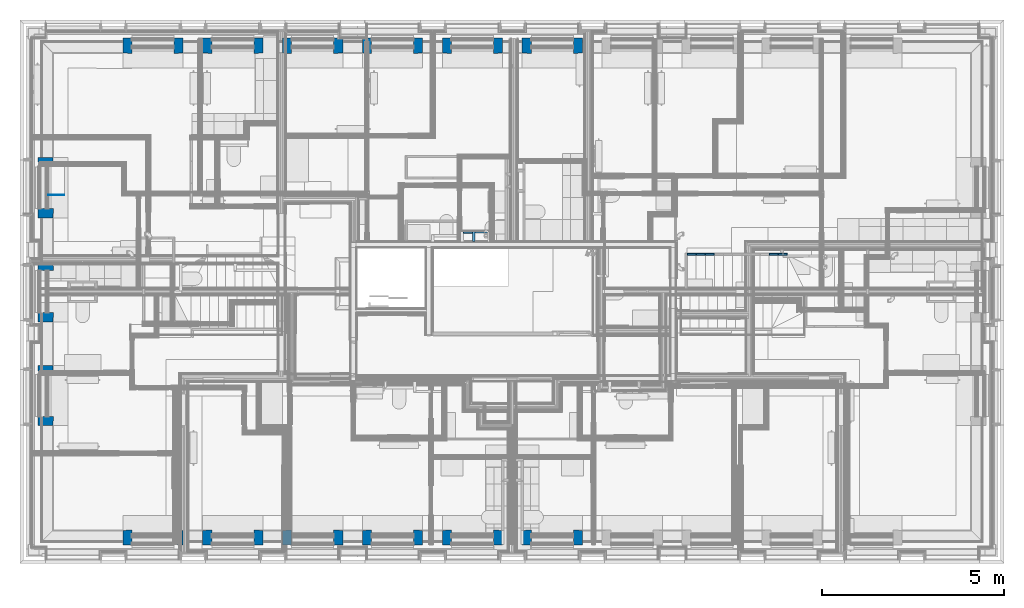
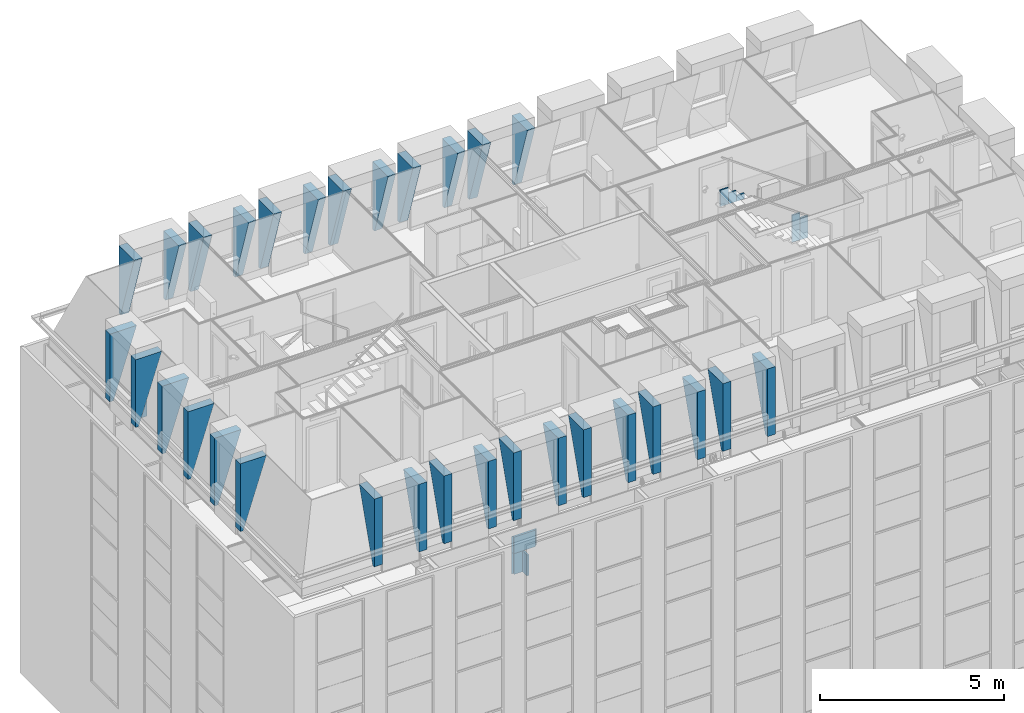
# One storey, part 11 of 169: 39 walls.
"""IFC2X3 building model written with IfcOpenShell, lengths in metres."""

import ifcopenshell
import ifcopenshell.guid

model = None  # the IFC model being written
_history = None  # IfcOwnerHistory: only IFC2X3 demands one
_inside = {}  # id of a spatial element -> (the spatial element, [elements in it])
_under = {}  # id of a project, library or spatial element -> (it, [spatial elements below it])
_declared = {}  # id of a project -> (the project, [libraries it declares])
_typed = {}  # id of a type object -> (the type object, [elements of that type])
_made_of = {}  # id of a material, layer set ... -> (it, [elements and type objects made of it])


def new_model(schema):
    """Start an empty IFC model of exactly this schema.

    Asked for "IFC4X3", IfcOpenShell would pick the latest addendum, in which some entities
    have other attributes; the version numbers below select the first issue.
    IFC2X3 requires an IfcOwnerHistory on every rooted entity: one is made here for all.
    """
    global model, _history
    if schema == "IFC4X3":
        model = ifcopenshell.file(schema_version=(4, 3, 0, 0))
    else:
        model = ifcopenshell.file(schema=schema)
    _inside.clear()
    _under.clear()
    _declared.clear()
    _typed.clear()
    _made_of.clear()
    _history = None
    if model.schema == "IFC2X3":
        org = make("IfcOrganization", Name="unknown")
        user = make(
            "IfcPersonAndOrganization",
            ThePerson=make("IfcPerson", FamilyName="unknown"),
            TheOrganization=org,
        )
        app = make(
            "IfcApplication",
            ApplicationDeveloper=org,
            Version="unknown",
            ApplicationFullName="unknown",
            ApplicationIdentifier="unknown",
        )
        _history = make(
            "IfcOwnerHistory",
            OwningUser=user,
            OwningApplication=app,
            ChangeAction="ADDED",
            CreationDate=0,
        )
    return model


def make(cls, **values):
    """One entity of the class cls with the attributes given. An attribute that is None is left unset."""
    return model.create_entity(
        cls, **{name: value for name, value in values.items() if value is not None}
    )


def entity(cls, *values):
    """Any entity or typed value of the class cls, its attributes in the order of the schema. None: left unset."""
    e = model.create_entity(cls)
    for i, value in enumerate(values):
        if value is not None:
            e[i] = value
    return e


def rooted(cls, **values):
    """An entity with a GlobalId (a new one), such as an element, a storey or a relation."""
    return make(cls, GlobalId=ifcopenshell.guid.new(), OwnerHistory=_history, **values)


def si_unit(unit_type, name, prefix=None):
    """IfcSIUnit, for example si_unit("LENGTHUNIT", "METRE", prefix="MILLI")."""
    return make("IfcSIUnit", UnitType=unit_type, Prefix=prefix, Name=name)


def converted_unit(unit_type, name, factor, base, dimensions=None, offset=None):
    """IfcConversionBasedUnit, such as the inch: factor (a typed value) times the base unit."""
    return make(
        "IfcConversionBasedUnit"
        if offset is None
        else "IfcConversionBasedUnitWithOffset",
        ConversionOffset=offset,
        Dimensions=None
        if dimensions is None
        else entity("IfcDimensionalExponents", *dimensions),
        UnitType=unit_type,
        Name=name,
        ConversionFactor=make(
            "IfcMeasureWithUnit", ValueComponent=factor, UnitComponent=base
        ),
    )


def derived_unit(unit_type, elements):
    """IfcDerivedUnit: a product of units, each with its exponent."""
    return make(
        "IfcDerivedUnit",
        Elements=[
            make("IfcDerivedUnitElement", Unit=unit, Exponent=power)
            for unit, power in elements
        ],
        UnitType=unit_type,
    )


def money_unit(currency):
    """IfcMonetaryUnit."""
    return make("IfcMonetaryUnit", Currency=currency)


def assignment(units):
    """IfcUnitAssignment: the units of a project."""
    return None if units is None else make("IfcUnitAssignment", Units=units)


def point(xyz):
    """IfcCartesianPoint."""
    return None if xyz is None else make("IfcCartesianPoint", Coordinates=xyz)


def direction(xyz):
    """IfcDirection."""
    return None if xyz is None else make("IfcDirection", DirectionRatios=xyz)


def frame(location, z_axis=None, x_axis=None):
    """IfcAxis2Placement3D, a coordinate frame: its origin and axes. An axis left out is left unset."""
    return make(
        "IfcAxis2Placement3D",
        Location=point(location),
        Axis=direction(z_axis),
        RefDirection=direction(x_axis),
    )


def frame_2d(location, x_axis=None):
    """IfcAxis2Placement2D, a coordinate frame in the plane: its origin and x axis."""
    return make(
        "IfcAxis2Placement2D", Location=point(location), RefDirection=direction(x_axis)
    )


def origin_with_axes():
    """The frame at (0, 0, 0) with the z axis (0, 0, 1) and the x axis (1, 0, 0) written out."""
    return frame((0.0, 0.0, 0.0), z_axis=(0.0, 0.0, 1.0), x_axis=(1.0, 0.0, 0.0))


def place(relative_to, where):
    """IfcLocalPlacement: puts the frame where relative to a parent placement (None: the world)."""
    return make(
        "IfcLocalPlacement", PlacementRelTo=relative_to, RelativePlacement=where
    )


def context(
    kind, dimensions, precision=None, world=None, true_north=None, identifier=None
):
    """IfcGeometricRepresentationContext, for example the 3D "Model" context."""
    return make(
        "IfcGeometricRepresentationContext",
        ContextIdentifier=identifier,
        ContextType=kind,
        CoordinateSpaceDimension=dimensions,
        Precision=precision,
        WorldCoordinateSystem=world,
        TrueNorth=true_north,
    )


def subcontext(parent, identifier, kind, view, scale=None):
    """IfcGeometricRepresentationSubContext, for example "Body" below "Model"."""
    return make(
        "IfcGeometricRepresentationSubContext",
        ContextIdentifier=identifier,
        ContextType=kind,
        ParentContext=parent,
        TargetScale=scale,
        TargetView=view,
    )


def project(units=None, contexts=None):
    """IfcProject with its units and contexts."""
    return rooted(
        "IfcProject",
        Name="project",
        RepresentationContexts=contexts,
        UnitsInContext=assignment(units),
    )


def spatial(cls, under=None, at=None, **own):
    """A site, building, storey or space (cls), placed at a placement, below another one or the project."""
    s = rooted(cls, ObjectPlacement=at, **own)
    if under is not None:
        _under.setdefault(under.id(), (under, []))[1].append(s)
    return s


def polyline(points):
    """IfcPolyline through the points."""
    return make("IfcPolyline", Points=[point(p) for p in points])


def profile(cls, at=None, kind="AREA", **sizes):
    """A parametric profile (cls). Its sizes go by their IFC names, for example OverallWidth=200.0."""
    return make(cls, ProfileType=kind, Position=at, **sizes)


def rectangle(**sizes):
    """IfcRectangleProfileDef."""
    return profile("IfcRectangleProfileDef", **sizes)


def outline(outer, holes=None, kind="AREA"):
    """IfcArbitraryClosedProfileDef: a profile drawn as a closed curve; with holes, ...WithVoids."""
    if holes is None:
        return make("IfcArbitraryClosedProfileDef", ProfileType=kind, OuterCurve=outer)
    return make(
        "IfcArbitraryProfileDefWithVoids",
        ProfileType=kind,
        OuterCurve=outer,
        InnerCurves=holes,
    )


def extrude(swept, where, along, depth):
    """IfcExtrudedAreaSolid: the profile swept, set in the frame where, extruded along a direction by depth."""
    return make(
        "IfcExtrudedAreaSolid",
        SweptArea=swept,
        Position=where,
        ExtrudedDirection=direction(along),
        Depth=depth,
    )


def faces_of(points, faces, orient=None, outer=None):
    """IfcFace entities. A face is a list of loops; a loop is a list of indices into points, from 0.

    orient and outer hold one flag for each loop. By default every Orientation is true, the
    first loop of a face is its IfcFaceOuterBound and the others are IfcFaceBound.
    """
    made = []
    for i, loops in enumerate(faces):
        bounds = []
        for j, loop in enumerate(loops):
            is_outer = j == 0 if outer is None else outer[i][j]
            bounds.append(
                make(
                    "IfcFaceOuterBound" if is_outer else "IfcFaceBound",
                    Bound=make("IfcPolyLoop", Polygon=[points[k] for k in loop]),
                    Orientation=True if orient is None else orient[i][j],
                )
            )
        made.append(make("IfcFace", Bounds=bounds))
    return made


def faceted_brep(points, faces, orient=None, outer=None, voids=None):
    """IfcFacetedBrep: a solid bounded by flat faces; with voids (closed shells), ...WithVoids."""
    shared = [point(p) for p in points]
    hull = make("IfcClosedShell", CfsFaces=faces_of(shared, faces, orient, outer))
    if voids is None:
        return make("IfcFacetedBrep", Outer=hull)
    return make(
        "IfcFacetedBrepWithVoids",
        Outer=hull,
        Voids=[
            make(cls, CfsFaces=faces_of(shared, fs, o, b)) for cls, fs, o, b in voids
        ],
    )


def shape(context_of_items, identifier, shape_type, items):
    """IfcShapeRepresentation: the items that make up one representation, for example the "Body"."""
    return make(
        "IfcShapeRepresentation",
        ContextOfItems=context_of_items,
        RepresentationIdentifier=identifier,
        RepresentationType=shape_type,
        Items=items,
    )


def material(Name=None, Category=None):
    """IfcMaterial."""
    return make("IfcMaterial", Name=Name, Category=Category)


def layer(
    of_material, thickness, ventilated=None, Name=None, Category=None, Priority=None
):
    """IfcMaterialLayer: one layer of a wall or slab, of a material (None: an air gap)."""
    return make(
        "IfcMaterialLayer",
        Material=of_material,
        LayerThickness=thickness,
        IsVentilated=ventilated,
        Name=Name,
        Category=Category,
        Priority=Priority,
    )


def layer_set(layers, Name=None):
    """IfcMaterialLayerSet."""
    return make("IfcMaterialLayerSet", MaterialLayers=layers, LayerSetName=Name)


def layer_usage(for_layer_set, set_direction, sense, offset, extent=None):
    """IfcMaterialLayerSetUsage: how a layer set lies in its element."""
    return make(
        "IfcMaterialLayerSetUsage",
        ForLayerSet=for_layer_set,
        LayerSetDirection=set_direction,
        DirectionSense=sense,
        OffsetFromReferenceLine=offset,
        ReferenceExtent=extent,
    )


def made_of(thing, what):
    """Note that an element or type object is made of a material, layer set ...; save() writes the relation."""
    if what is not None:
        _made_of.setdefault(what.id(), (what, []))[1].append(thing)
    return thing


def type_object(cls, material=None, **own):
    """A type object (cls), such as IfcWallType, which elements share."""
    return made_of(rooted(cls, **own), material)


def element(
    cls,
    number,
    at=None,
    inside=None,
    cuts=None,
    type_object=None,
    material=None,
    context=None,
    identifier="Body",
    shape_type=None,
    held_by="IfcProductDefinitionShape",
    body=None,
    shapes=None,
    **own,
):
    """One element of the class cls, such as IfcWall. Its Tag is "e" and its number.

    at: its placement. inside: the storey or other place that contains it. cuts: it is an
    opening in that element (IfcRelVoidsElement). A single representation is given by context,
    identifier, shape_type and body (its items); several are given by shapes. held_by: the class
    of the entity that holds the representations. save() writes the other relations.
    """
    e = rooted(cls, Tag="e%d" % number, ObjectPlacement=at, **own)
    if body is not None:
        shapes = [shape(context, identifier, shape_type, body)]
    if shapes is not None:
        e.Representation = make(held_by, Representations=shapes)
    if inside is not None:
        _inside.setdefault(inside.id(), (inside, []))[1].append(e)
    if cuts is not None:
        rooted(
            "IfcRelVoidsElement", RelatingBuildingElement=cuts, RelatedOpeningElement=e
        )
    if type_object is not None:
        _typed.setdefault(type_object.id(), (type_object, []))[1].append(e)
    return made_of(e, material)


def aggregate(whole, parts):
    """IfcRelAggregates: a whole, such as a stair, and the parts it consists of."""
    return rooted("IfcRelAggregates", RelatingObject=whole, RelatedObjects=parts)


def save(model, path):
    """Write the relations noted so far, then the file.

    IfcRelAggregates (storeys below a building ...), IfcRelContainedInSpatialStructure (elements
    in a storey), IfcRelDefinesByType, IfcRelAssociatesMaterial and IfcRelDeclares: one each for
    every whole, place, type object, material and project.
    """
    for whole, parts in _under.values():
        aggregate(whole, parts)
    for where, things in _inside.values():
        rooted(
            "IfcRelContainedInSpatialStructure",
            RelatedElements=things,
            RelatingStructure=where,
        )
    for kind, things in _typed.values():
        rooted("IfcRelDefinesByType", RelatedObjects=things, RelatingType=kind)
    for what, things in _made_of.values():
        rooted("IfcRelAssociatesMaterial", RelatedObjects=things, RelatingMaterial=what)
    for by, libraries in _declared.values():
        rooted("IfcRelDeclares", RelatingContext=by, RelatedDefinitions=libraries)
    model.write(path)


model = new_model("IFC2X3")

# Units and contexts
model_context = context("Model", 3, precision=1e-05, world=origin_with_axes(), true_north=direction((0.0, 1.0)))
body_context = subcontext(model_context, "Body", "Model", "MODEL_VIEW", scale=1.0)
ifc_project = project(units=[si_unit("LENGTHUNIT", "METRE"), si_unit("AREAUNIT", "SQUARE_METRE"), si_unit("VOLUMEUNIT", "CUBIC_METRE"), si_unit("ABSORBEDDOSEUNIT", "GRAY"), si_unit("AMOUNTOFSUBSTANCEUNIT", "MOLE"), si_unit("DOSEEQUIVALENTUNIT", "SIEVERT"), si_unit("ELECTRICCAPACITANCEUNIT", "FARAD"), si_unit("ELECTRICCHARGEUNIT", "COULOMB"), si_unit("ELECTRICCONDUCTANCEUNIT", "SIEMENS"), si_unit("ELECTRICCURRENTUNIT", "AMPERE"), si_unit("ELECTRICRESISTANCEUNIT", "OHM"), si_unit("ELECTRICVOLTAGEUNIT", "VOLT"), si_unit("ENERGYUNIT", "JOULE"), si_unit("FORCEUNIT", "NEWTON"), si_unit("FREQUENCYUNIT", "HERTZ"), si_unit("ILLUMINANCEUNIT", "LUX"), si_unit("INDUCTANCEUNIT", "HENRY"), si_unit("LUMINOUSFLUXUNIT", "LUMEN"), si_unit("LUMINOUSINTENSITYUNIT", "CANDELA"), si_unit("MAGNETICFLUXDENSITYUNIT", "TESLA"), si_unit("MAGNETICFLUXUNIT", "WEBER"), si_unit("MASSUNIT", "GRAM"), converted_unit("PLANEANGLEUNIT", "degree", entity("IfcReal", 0.0174532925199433), si_unit("PLANEANGLEUNIT", "RADIAN"), dimensions=[0, 0, 0, 0, 0, 0, 0]), si_unit("POWERUNIT", "WATT"), si_unit("PRESSUREUNIT", "PASCAL"), si_unit("RADIOACTIVITYUNIT", "BECQUEREL"), si_unit("SOLIDANGLEUNIT", "STERADIAN"), si_unit("THERMODYNAMICTEMPERATUREUNIT", "KELVIN"), si_unit("TIMEUNIT", "SECOND"), derived_unit("ACCELERATIONUNIT", [(si_unit("LENGTHUNIT", "METRE"), 1), (si_unit("TIMEUNIT", "SECOND"), -2)]), derived_unit("ANGULARVELOCITYUNIT", [(converted_unit("PLANEANGLEUNIT", "degree", entity("IfcReal", 0.0174532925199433), si_unit("PLANEANGLEUNIT", "RADIAN"), dimensions=[0, 0, 0, 0, 0, 0, 0]), 1), (si_unit("TIMEUNIT", "SECOND"), -1)]), derived_unit("CURVATUREUNIT", [(converted_unit("PLANEANGLEUNIT", "degree", entity("IfcReal", 0.0174532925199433), si_unit("PLANEANGLEUNIT", "RADIAN"), dimensions=[0, 0, 0, 0, 0, 0, 0]), 1), (si_unit("LENGTHUNIT", "METRE"), -1)]), derived_unit("DYNAMICVISCOSITYUNIT", [(si_unit("PRESSUREUNIT", "PASCAL"), 1), (si_unit("TIMEUNIT", "SECOND"), 1)]), derived_unit("HEATFLUXDENSITYUNIT", [(si_unit("POWERUNIT", "WATT"), 1), (si_unit("LENGTHUNIT", "METRE"), -2)]), derived_unit("HEATINGVALUEUNIT", [(si_unit("ENERGYUNIT", "JOULE"), 1), (si_unit("MASSUNIT", "GRAM"), -1)]), derived_unit("INTEGERCOUNTRATEUNIT", [(si_unit("TIMEUNIT", "SECOND"), -1)]), derived_unit("IONCONCENTRATIONUNIT", [(si_unit("MASSUNIT", "GRAM"), 1), (si_unit("VOLUMEUNIT", "CUBIC_METRE"), -1)]), derived_unit("ISOTHERMALMOISTURECAPACITYUNIT", [(si_unit("VOLUMEUNIT", "CUBIC_METRE"), 1), (si_unit("MASSUNIT", "GRAM"), -1)]), derived_unit("KINEMATICVISCOSITYUNIT", [(si_unit("AREAUNIT", "SQUARE_METRE"), 1), (si_unit("TIMEUNIT", "SECOND"), -1)]), derived_unit("LINEARFORCEUNIT", [(si_unit("FORCEUNIT", "NEWTON"), 1), (si_unit("LENGTHUNIT", "METRE"), -1)]), derived_unit("LINEARMOMENTUNIT", [(si_unit("FORCEUNIT", "NEWTON"), 1), (si_unit("LENGTHUNIT", "METRE"), -1)]), derived_unit("LINEARSTIFFNESSUNIT", [(si_unit("FORCEUNIT", "NEWTON"), 1), (si_unit("LENGTHUNIT", "METRE"), -1)]), derived_unit("LINEARVELOCITYUNIT", [(si_unit("LENGTHUNIT", "METRE"), 1), (si_unit("TIMEUNIT", "SECOND"), -1)]), derived_unit("LUMINOUSINTENSITYDISTRIBUTIONUNIT", [(si_unit("LUMINOUSINTENSITYUNIT", "CANDELA"), 1), (si_unit("LUMINOUSFLUXUNIT", "LUMEN"), -1)]), derived_unit("MASSDENSITYUNIT", [(si_unit("MASSUNIT", "GRAM"), 1), (si_unit("VOLUMEUNIT", "CUBIC_METRE"), -1)]), derived_unit("MASSFLOWRATEUNIT", [(si_unit("MASSUNIT", "GRAM"), 1), (si_unit("TIMEUNIT", "SECOND"), -1)]), derived_unit("MASSPERLENGTHUNIT", [(si_unit("MASSUNIT", "GRAM"), 1), (si_unit("LENGTHUNIT", "METRE"), -1)]), derived_unit("MODULUSOFELASTICITYUNIT", [(si_unit("FORCEUNIT", "NEWTON"), 1), (si_unit("AREAUNIT", "SQUARE_METRE"), -1)]), derived_unit("MODULUSOFLINEARSUBGRADEREACTIONUNIT", [(si_unit("FORCEUNIT", "NEWTON"), 1), (si_unit("LENGTHUNIT", "METRE"), -2)]), derived_unit("MODULUSOFROTATIONALSUBGRADEREACTIONUNIT", [(si_unit("FORCEUNIT", "NEWTON"), 1), (si_unit("LENGTHUNIT", "METRE"), 1)]), derived_unit("MODULUSOFSUBGRADEREACTIONUNIT", [(si_unit("FORCEUNIT", "NEWTON"), 1), (si_unit("VOLUMEUNIT", "CUBIC_METRE"), -1)]), derived_unit("MOISTUREDIFFUSIVITYUNIT", [(si_unit("VOLUMEUNIT", "CUBIC_METRE"), 1), (si_unit("TIMEUNIT", "SECOND"), -1)]), derived_unit("MOLECULARWEIGHTUNIT", [(si_unit("MASSUNIT", "GRAM"), 1), (si_unit("AMOUNTOFSUBSTANCEUNIT", "MOLE"), -1)]), derived_unit("PLANARFORCEUNIT", [(si_unit("FORCEUNIT", "NEWTON"), 1), (si_unit("LENGTHUNIT", "METRE"), -2)]), derived_unit("ROTATIONALFREQUENCYUNIT", [(si_unit("TIMEUNIT", "SECOND"), -1)]), derived_unit("ROTATIONALMASSUNIT", [(si_unit("MASSUNIT", "GRAM"), 1), (si_unit("LENGTHUNIT", "METRE"), 2)]), derived_unit("ROTATIONALSTIFFNESSUNIT", [(si_unit("FORCEUNIT", "NEWTON"), 1), (si_unit("LENGTHUNIT", "METRE"), 1), (converted_unit("PLANEANGLEUNIT", "degree", entity("IfcReal", 0.0174532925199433), si_unit("PLANEANGLEUNIT", "RADIAN"), dimensions=[0, 0, 0, 0, 0, 0, 0]), -1)]), derived_unit("SECTIONAREAINTEGRALUNIT", [(si_unit("LENGTHUNIT", "METRE"), 5)]), derived_unit("SECTIONMODULUSUNIT", [(si_unit("LENGTHUNIT", "METRE"), 3)]), derived_unit("SHEARMODULUSUNIT", [(si_unit("FORCEUNIT", "NEWTON"), 1), (si_unit("AREAUNIT", "SQUARE_METRE"), -1)]), derived_unit("SOUNDPOWERUNIT", [(si_unit("ENERGYUNIT", "JOULE"), 1), (si_unit("TIMEUNIT", "SECOND"), -1)]), derived_unit("SPECIFICHEATCAPACITYUNIT", [(si_unit("FORCEUNIT", "NEWTON"), 1), (si_unit("MASSUNIT", "GRAM"), -1), (si_unit("THERMODYNAMICTEMPERATUREUNIT", "KELVIN"), -1)]), derived_unit("TEMPERATUREGRADIENTUNIT", [(si_unit("THERMODYNAMICTEMPERATUREUNIT", "KELVIN"), 1), (si_unit("LENGTHUNIT", "METRE"), -1)]), derived_unit("THERMALADMITTANCEUNIT", [(si_unit("POWERUNIT", "WATT"), 1), (si_unit("AREAUNIT", "SQUARE_METRE"), -1), (si_unit("THERMODYNAMICTEMPERATUREUNIT", "KELVIN"), -1)]), derived_unit("THERMALCONDUCTANCEUNIT", [(si_unit("POWERUNIT", "WATT"), 1), (si_unit("LENGTHUNIT", "METRE"), -1), (si_unit("THERMODYNAMICTEMPERATUREUNIT", "KELVIN"), -1)]), derived_unit("THERMALEXPANSIONCOEFFICIENTUNIT", [(si_unit("THERMODYNAMICTEMPERATUREUNIT", "KELVIN"), -1)]), derived_unit("THERMALRESISTANCEUNIT", [(si_unit("AREAUNIT", "SQUARE_METRE"), 1), (si_unit("POWERUNIT", "WATT"), -1)]), derived_unit("THERMALTRANSMITTANCEUNIT", [(si_unit("POWERUNIT", "WATT"), 1), (si_unit("AREAUNIT", "SQUARE_METRE"), -1), (si_unit("THERMODYNAMICTEMPERATUREUNIT", "KELVIN"), -1)]), derived_unit("TORQUEUNIT", [(si_unit("FORCEUNIT", "NEWTON"), 1), (si_unit("LENGTHUNIT", "METRE"), 1)]), derived_unit("VAPORPERMEABILITYUNIT", [(si_unit("MASSUNIT", "GRAM"), 1), (si_unit("TIMEUNIT", "SECOND"), -1)]), derived_unit("VOLUMETRICFLOWRATEUNIT", [(si_unit("VOLUMEUNIT", "CUBIC_METRE"), 1), (si_unit("TIMEUNIT", "SECOND"), -1)]), derived_unit("WARPINGCONSTANTUNIT", [(si_unit("LENGTHUNIT", "METRE"), 6)]), derived_unit("WARPINGMOMENTUNIT", [(si_unit("FORCEUNIT", "NEWTON"), 1), (si_unit("LENGTHUNIT", "METRE"), 2)]), money_unit("GBP")], contexts=[model_context])

# Site, building, storey
site_placement = place(None, origin_with_axes())
site = spatial("IfcSite", under=ifc_project, at=site_placement, Name="Site", CompositionType="ELEMENT")
building_placement = place(site_placement, origin_with_axes())
building = spatial("IfcBuilding", under=site, at=building_placement, Name="Building01", CompositionType="ELEMENT")
storey_placement = place(building_placement, frame((0.0, 0.0, 5.15), z_axis=(0.0, 0.0, 1.0), x_axis=(1.0, 0.0, 0.0)))
storey = spatial("IfcBuildingStorey", under=building, at=storey_placement, Name="1F", CompositionType="ELEMENT", Elevation=5.15)

# Walls
ifc_material_1 = material(Name="A_BSUK_WallsInternal")
ifc_layer_1 = layer(ifc_material_1, 0.05, ventilated=False)
ifc_layer_set_1 = layer_set([ifc_layer_1])
ifc_layer_usage_1 = layer_usage(ifc_layer_set_1, "AXIS2", "POSITIVE", 0.0)
wall_type_1 = type_object("IfcWallType", Name="A-Walls-Internal", PredefinedType="NOTDEFINED")
wall_1_placement = place(storey_placement, frame((20.539976, 8.449915, 9.83), z_axis=(0.0, 0.0, 1.0), x_axis=(1.0, 0.0, 0.0)))
element("IfcWallStandardCase", 1, at=wall_1_placement, inside=storey, type_object=wall_type_1, material=ifc_layer_usage_1, Name="A-Walls-Internal", ObjectType="A-Walls-Internal", context=body_context, shape_type="SweptSolid", body=[
    extrude(rectangle(XDim=0.25, YDim=0.05, at=frame_2d((0.125, 0.025), x_axis=(1.0, 0.0))), origin_with_axes(), (0.0, 0.0, 1.0), 0.9),
])
wall_2_placement = place(storey_placement, frame((20.789976, 8.449915, 9.83), z_axis=(0.0, 0.0, 1.0), x_axis=(1.0, 0.0, 0.0)))
element("IfcWallStandardCase", 2, at=wall_2_placement, inside=storey, type_object=wall_type_1, material=ifc_layer_usage_1, Name="A-Walls-Internal", ObjectType="A-Walls-Internal", context=body_context, shape_type="SweptSolid", body=[
    extrude(rectangle(XDim=0.25, YDim=0.05, at=frame_2d((0.125, 0.025), x_axis=(1.0, 0.0))), origin_with_axes(), (0.0, 0.0, 1.0), 0.72),
])
wall_3_placement = place(storey_placement, frame((18.789976, 8.449915, 11.81), z_axis=(0.0, 0.0, 1.0), x_axis=(1.0, 0.0, 0.0)))
element("IfcWallStandardCase", 3, at=wall_3_placement, inside=storey, type_object=wall_type_1, material=ifc_layer_usage_1, Name="A-Walls-Internal", ObjectType="A-Walls-Internal", context=body_context, shape_type="SweptSolid", body=[
    extrude(rectangle(XDim=0.25, YDim=0.05, at=frame_2d((0.125, 0.025), x_axis=(1.0, 0.0))), origin_with_axes(), (0.0, 0.0, 1.0), 0.18),
])
wall_4_placement = place(storey_placement, frame((18.539976, 8.449915, 11.81), z_axis=(0.0, 0.0, 1.0), x_axis=(1.0, 0.0, 0.0)))
element("IfcWallStandardCase", 4, at=wall_4_placement, inside=storey, type_object=wall_type_1, material=ifc_layer_usage_1, Name="A-Walls-Internal", ObjectType="A-Walls-Internal", context=body_context, shape_type="SweptSolid", body=[
    extrude(rectangle(XDim=0.25, YDim=0.05, at=frame_2d((0.125, 0.025), x_axis=(1.0, 0.0))), origin_with_axes(), (0.0, 0.0, 1.0), 0.36),
])
wall_5_placement = place(storey_placement, frame((18.289976, 8.449915, 11.81), z_axis=(0.0, 0.0, 1.0), x_axis=(1.0, 0.0, 0.0)))
element("IfcWallStandardCase", 5, at=wall_5_placement, inside=storey, type_object=wall_type_1, material=ifc_layer_usage_1, Name="A-Walls-Internal", ObjectType="A-Walls-Internal", context=body_context, shape_type="SweptSolid", body=[
    extrude(rectangle(XDim=0.25, YDim=0.05, at=frame_2d((0.125, 0.025), x_axis=(1.0, 0.0))), origin_with_axes(), (0.0, 0.0, 1.0), 0.54),
])
ifc_material_2 = material(Name="A_BSUK_OpeningsClearance")
ifc_layer_2 = layer(ifc_material_2, 0.05, ventilated=False)
ifc_material_3 = material(Name="A_BSUK_Walls_Timber")
ifc_layer_3 = layer(ifc_material_3, 0.015, ventilated=False)
ifc_layer_set_2 = layer_set([ifc_layer_2, ifc_layer_3])
ifc_layer_usage_2 = layer_usage(ifc_layer_set_2, "AXIS2", "POSITIVE", 0.0)
wall_type_2 = type_object("IfcWallType", Name="SHE_A-Walls_Type05c_PreWallShell_65mm", PredefinedType="NOTDEFINED")
wall_6_placement = place(storey_placement, frame((12.153871, 9.055, 2.065), z_axis=(0.0, 0.0, 1.0), x_axis=(1.0, 0.0, 0.0)))
element("IfcWallStandardCase", 6, at=wall_6_placement, inside=storey, type_object=wall_type_2, material=ifc_layer_usage_2, Name="5C", ObjectType="SHE_A-Walls_Type05c_PreWallShell_65mm", context=body_context, shape_type="SweptSolid", body=[
    extrude(outline(polyline([(0.674714, 0.05), (0.724714, 0.05), (0.724714, 0.065), (-0.05, 0.065), (-0.05, 0.05), (0.0, 0.05), (0.0, 0.0), (0.674714, 0.0), (0.674714, 0.05)])), origin_with_axes(), (0.0, 0.0, 1.0), 0.55),
])
wall_7_placement = place(storey_placement, frame((12.153871, 9.055, 1.375), z_axis=(0.0, 0.0, 1.0), x_axis=(1.0, 0.0, 0.0)))
element("IfcWallStandardCase", 7, at=wall_7_placement, inside=storey, type_object=wall_type_2, material=ifc_layer_usage_2, Name="5C", ObjectType="SHE_A-Walls_Type05c_PreWallShell_65mm", context=body_context, shape_type="SweptSolid", body=[
    extrude(outline(polyline([(0.259714, 0.05), (0.309714, 0.05), (0.309714, 0.065), (-0.05, 0.065), (-0.05, 0.05), (0.0, 0.05), (0.0, 0.0), (0.259714, 0.0), (0.259714, 0.05)])), origin_with_axes(), (0.0, 0.0, 1.0), 0.69),
])
wall_8_placement = place(storey_placement, frame((12.413585, 9.105, 1.375), z_axis=(0.0, 0.0, 1.0), x_axis=(0.0, -1.0, 0.0)))
element("IfcWallStandardCase", 8, at=wall_8_placement, inside=storey, type_object=wall_type_2, material=ifc_layer_usage_2, Name="5C", ObjectType="SHE_A-Walls_Type05c_PreWallShell_65mm", context=body_context, shape_type="SweptSolid", body=[
    extrude(outline(polyline([(0.285, 0.065), (-0.015, 0.065), (-0.015, 0.05), (0.0, 0.05), (0.0, 0.0), (0.285, 0.0), (0.285, 0.065)])), origin_with_axes(), (0.0, 0.0, 1.0), 0.69),
])
ifc_layer_set_3 = layer_set([ifc_layer_3])
ifc_layer_usage_3 = layer_usage(ifc_layer_set_3, "AXIS2", "POSITIVE", 0.0)
wall_type_3 = type_object("IfcWallType", Name="default", PredefinedType="NOTDEFINED")
wall_9_placement = place(storey_placement, frame((1.22, 10.114939, 9.83), z_axis=(0.0, 0.0, 1.0), x_axis=(-1.0, 0.0, 0.0)))
element("IfcWallStandardCase", 9, at=wall_9_placement, inside=storey, type_object=wall_type_3, material=ifc_layer_usage_3, Name="default", ObjectType="default", context=body_context, shape_type="SweptSolid", body=[
    extrude(rectangle(XDim=0.440061, YDim=0.015, at=frame_2d((0.22003, 0.0075), x_axis=(-1.0, 0.0))), origin_with_axes(), (0.0, 0.0, 1.0), 0.5),
])
ifc_material_4 = material(Name="A_BSUK_Roofs")
wall_type_4 = type_object("IfcWallType", Name="A-Walls-ExternalBlock", PredefinedType="NOTDEFINED")
wall_10_placement = place(storey_placement, frame((2.820024, 0.594572, 10.08), z_axis=(0.0, 0.0, 1.0), x_axis=(0.0, -1.0, 0.0)))
element("IfcWall", 10, at=wall_10_placement, inside=storey, type_object=wall_type_4, material=ifc_material_4, Name="7C", ObjectType="A-Walls-ExternalBlock", context=body_context, shape_type="Brep", body=[
    faceted_brep([(-0.015772, 0.25, 0.0), (0.0, 0.0, 0.0), (-0.731069, 0.0, 2.25), (-0.746841, 0.25, 2.25), (0.094632, 0.25, 0.0), (0.094632, 0.0, 0.0), (0.094632, 0.0, 2.25), (0.094632, 0.25, 2.25)], [[[0, 1, 2, 3]], [[1, 0, 4, 5]], [[2, 1, 5, 6]], [[0, 3, 7, 4]], [[3, 2, 6, 7]], [[5, 4, 7, 6]]]),
])
wall_11_placement = place(storey_placement, frame((4.469976, 0.499939, 10.08), z_axis=(0.0, 0.0, 1.0), x_axis=(0.0, 1.0, 0.0)))
element("IfcWall", 11, at=wall_11_placement, inside=storey, type_object=wall_type_4, material=ifc_material_4, Name="7C", ObjectType="A-Walls-ExternalBlock", context=body_context, shape_type="Brep", body=[
    faceted_brep([(0.094632, 0.0, 0.0), (0.110404, 0.25, 0.0), (0.841474, 0.25, 2.25), (0.825702, 0.0, 2.25), (0.0, 0.0, 0.0), (0.0, 0.25, 0.0), (0.0, 0.0, 2.25), (0.0, 0.25, 2.25)], [[[0, 1, 2, 3]], [[1, 0, 4, 5]], [[0, 3, 6, 4]], [[2, 1, 5, 7]], [[3, 2, 7, 6]], [[5, 4, 6, 7]]]),
])
wall_12_placement = place(storey_placement, frame((5.260024, 0.499939, 10.08), z_axis=(0.0, 0.0, 1.0), x_axis=(0.0, 1.0, 0.0)))
element("IfcWall", 12, at=wall_12_placement, inside=storey, type_object=wall_type_4, material=ifc_material_4, Name="7C", ObjectType="A-Walls-ExternalBlock", context=body_context, shape_type="Brep", body=[
    faceted_brep([(0.110404, 0.0, 0.0), (0.094632, 0.25, 0.0), (0.825702, 0.25, 2.25), (0.841474, 0.0, 2.25), (0.0, 0.0, 0.0), (0.0, 0.25, 0.0), (0.0, 0.0, 2.25), (0.0, 0.25, 2.25)], [[[0, 1, 2, 3]], [[1, 0, 4, 5]], [[0, 3, 6, 4]], [[2, 1, 5, 7]], [[3, 2, 7, 6]], [[5, 4, 6, 7]]]),
])
wall_13_placement = place(storey_placement, frame((6.660024, 0.499939, 10.08), z_axis=(0.0, 0.0, 1.0), x_axis=(0.0, 1.0, 0.0)))
element("IfcWall", 13, at=wall_13_placement, inside=storey, type_object=wall_type_4, material=ifc_material_4, Name="7C", ObjectType="A-Walls-ExternalBlock", context=body_context, shape_type="Brep", body=[
    faceted_brep([(0.094632, 0.0, 0.0), (0.110404, 0.250049, 0.0), (0.841474, 0.250049, 2.25), (0.825702, 0.0, 2.25), (0.0, 0.0, 0.0), (0.0, 0.250049, 0.0), (0.0, 0.0, 2.25), (0.0, 0.250049, 2.25)], [[[0, 1, 2, 3]], [[1, 0, 4, 5]], [[0, 3, 6, 4]], [[2, 1, 5, 7]], [[3, 2, 7, 6]], [[5, 4, 6, 7]]]),
])
wall_14_placement = place(storey_placement, frame((7.450024, 0.499939, 10.08), z_axis=(0.0, 0.0, 1.0), x_axis=(0.0, 1.0, 0.0)))
element("IfcWall", 14, at=wall_14_placement, inside=storey, type_object=wall_type_4, material=ifc_material_4, Name="7C", ObjectType="A-Walls-ExternalBlock", context=body_context, shape_type="Brep", body=[
    faceted_brep([(0.110404, 0.0, 0.0), (0.094632, 0.25, 0.0), (0.825702, 0.25, 2.25), (0.841474, 0.0, 2.25), (0.0, 0.0, 0.0), (0.0, 0.25, 0.0), (0.0, 0.0, 2.25), (0.0, 0.25, 2.25)], [[[0, 1, 2, 3]], [[1, 0, 4, 5]], [[0, 3, 6, 4]], [[2, 1, 5, 7]], [[3, 2, 7, 6]], [[5, 4, 6, 7]]]),
])
wall_15_placement = place(storey_placement, frame((8.850024, 0.499939, 10.08), z_axis=(0.0, 0.0, 1.0), x_axis=(0.0, 1.0, 0.0)))
element("IfcWall", 15, at=wall_15_placement, inside=storey, type_object=wall_type_4, material=ifc_material_4, Name="7C", ObjectType="A-Walls-ExternalBlock", context=body_context, shape_type="Brep", body=[
    faceted_brep([(0.094632, 0.0, 0.0), (0.110404, 0.250049, 0.0), (0.841474, 0.250049, 2.25), (0.825702, 0.0, 2.25), (0.0, 0.0, 0.0), (0.0, 0.250049, 0.0), (0.0, 0.0, 2.25), (0.0, 0.250049, 2.25)], [[[0, 1, 2, 3]], [[1, 0, 4, 5]], [[0, 3, 6, 4]], [[2, 1, 5, 7]], [[3, 2, 7, 6]], [[5, 4, 6, 7]]]),
])
wall_16_placement = place(storey_placement, frame((9.640024, 0.499939, 10.08), z_axis=(0.0, 0.0, 1.0), x_axis=(0.0, 1.0, 0.0)))
element("IfcWall", 16, at=wall_16_placement, inside=storey, type_object=wall_type_4, material=ifc_material_4, Name="7C", ObjectType="A-Walls-ExternalBlock", context=body_context, shape_type="Brep", body=[
    faceted_brep([(0.110404, 0.0, 0.0), (0.094632, 0.25, 0.0), (0.825702, 0.25, 2.25), (0.841474, 0.0, 2.25), (0.0, 0.0, 0.0), (0.0, 0.25, 0.0), (0.0, 0.0, 2.25), (0.0, 0.25, 2.25)], [[[0, 1, 2, 3]], [[1, 0, 4, 5]], [[0, 3, 6, 4]], [[2, 1, 5, 7]], [[3, 2, 7, 6]], [[5, 4, 6, 7]]]),
])
wall_17_placement = place(storey_placement, frame((11.040024, 0.499939, 10.08), z_axis=(0.0, 0.0, 1.0), x_axis=(0.0, 1.0, 0.0)))
element("IfcWall", 17, at=wall_17_placement, inside=storey, type_object=wall_type_4, material=ifc_material_4, Name="7C", ObjectType="A-Walls-ExternalBlock", context=body_context, shape_type="Brep", body=[
    faceted_brep([(0.094632, 0.0, 0.0), (0.110404, 0.250049, 0.0), (0.841474, 0.250049, 2.25), (0.825702, 0.0, 2.25), (0.0, 0.0, 0.0), (0.0, 0.250049, 0.0), (0.0, 0.0, 2.25), (0.0, 0.250049, 2.25)], [[[0, 1, 2, 3]], [[1, 0, 4, 5]], [[0, 3, 6, 4]], [[2, 1, 5, 7]], [[3, 2, 7, 6]], [[5, 4, 6, 7]]]),
])
wall_18_placement = place(storey_placement, frame((11.830024, 0.499939, 10.08), z_axis=(0.0, 0.0, 1.0), x_axis=(0.0, 1.0, 0.0)))
element("IfcWall", 18, at=wall_18_placement, inside=storey, type_object=wall_type_4, material=ifc_material_4, Name="7C", ObjectType="A-Walls-ExternalBlock", context=body_context, shape_type="Brep", body=[
    faceted_brep([(0.110404, 0.0, 0.0), (0.094632, 0.25, 0.0), (0.825702, 0.25, 2.25), (0.841474, 0.0, 2.25), (0.0, 0.0, 0.0), (0.0, 0.25, 0.0), (0.0, 0.0, 2.25), (0.0, 0.25, 2.25)], [[[0, 1, 2, 3]], [[1, 0, 4, 5]], [[0, 3, 6, 4]], [[2, 1, 5, 7]], [[3, 2, 7, 6]], [[5, 4, 6, 7]]]),
])
wall_19_placement = place(storey_placement, frame((13.229976, 0.499939, 10.08), z_axis=(0.0, 0.0, 1.0), x_axis=(0.0, 1.0, 0.0)))
element("IfcWall", 19, at=wall_19_placement, inside=storey, type_object=wall_type_4, material=ifc_material_4, Name="7C", ObjectType="A-Walls-ExternalBlock", context=body_context, shape_type="Brep", body=[
    faceted_brep([(0.094632, 0.0, 0.0), (0.110404, 0.25, 0.0), (0.841474, 0.25, 2.25), (0.825702, 0.0, 2.25), (0.0, 0.0, 0.0), (0.0, 0.25, 0.0), (0.0, 0.0, 2.25), (0.0, 0.25, 2.25)], [[[0, 1, 2, 3]], [[1, 0, 4, 5]], [[0, 3, 6, 4]], [[2, 1, 5, 7]], [[3, 2, 7, 6]], [[5, 4, 6, 7]]]),
])
wall_20_placement = place(storey_placement, frame((14.020024, 0.499939, 10.08), z_axis=(0.0, 0.0, 1.0), x_axis=(0.0, 1.0, 0.0)))
element("IfcWall", 20, at=wall_20_placement, inside=storey, type_object=wall_type_4, material=ifc_material_4, Name="7C", ObjectType="A-Walls-ExternalBlock", context=body_context, shape_type="Brep", body=[
    faceted_brep([(0.110404, 0.0, 0.0), (0.094632, 0.25, 0.0), (0.825702, 0.25, 2.25), (0.841474, 0.0, 2.25), (0.0, 0.0, 0.0), (0.0, 0.25, 0.0), (0.0, 0.0, 2.25), (0.0, 0.25, 2.25)], [[[0, 1, 2, 3]], [[1, 0, 4, 5]], [[0, 3, 6, 4]], [[2, 1, 5, 7]], [[3, 2, 7, 6]], [[5, 4, 6, 7]]]),
])
for number, where, z_axis, x_axis, name in (
    (21, (15.419976, 0.499939, 10.08), (0.0, 0.0, 1.0), (0.0, 1.0, 0.0), "7C"),
    (22, (0.499939, 9.474964, 10.08), (0.0, 0.0, 1.0), (1.0, 0.0, 0.0), "7C"),
):
    element("IfcWall", number, at=place(storey_placement, frame(where, z_axis=z_axis, x_axis=x_axis)), inside=storey, type_object=wall_type_4, material=ifc_material_4, Name=name, ObjectType="A-Walls-ExternalBlock", context=body_context, shape_type="Brep", body=[
        faceted_brep([(0.094632, 0.0, 0.0), (0.110404, 0.25, 0.0), (0.841474, 0.25, 2.25), (0.825702, 0.0, 2.25), (0.0, 0.0, 0.0), (0.0, 0.25, 0.0), (0.0, 0.0, 2.25), (0.0, 0.25, 2.25)], [[[0, 1, 2, 3]], [[1, 0, 4, 5]], [[0, 3, 6, 4]], [[2, 1, 5, 7]], [[3, 2, 7, 6]], [[5, 4, 6, 7]]]),
    ])
wall_21_placement = place(storey_placement, frame((0.499939, 8.024915, 10.08), z_axis=(0.0, 0.0, 1.0), x_axis=(1.0, 0.0, 0.0)))
element("IfcWall", 23, at=wall_21_placement, inside=storey, type_object=wall_type_4, material=ifc_material_4, Name="7C", ObjectType="A-Walls-ExternalBlock", context=body_context, shape_type="Brep", body=[
    faceted_brep([(0.110404, 0.0, 0.0), (0.094632, 0.25, 0.0), (0.825702, 0.25, 2.25), (0.841474, 0.0, 2.25), (0.0, 0.0, 0.0), (0.0, 0.25, 0.0), (0.0, 0.0, 2.25), (0.0, 0.25, 2.25)], [[[0, 1, 2, 3]], [[1, 0, 4, 5]], [[0, 3, 6, 4]], [[2, 1, 5, 7]], [[3, 2, 7, 6]], [[5, 4, 6, 7]]]),
])
wall_22_placement = place(storey_placement, frame((0.594572, 11.124915, 10.08), z_axis=(0.0, 0.0, 1.0), x_axis=(-1.0, 0.0, 0.0)))
element("IfcWall", 24, at=wall_22_placement, inside=storey, type_object=wall_type_4, material=ifc_material_4, Name="7C", ObjectType="A-Walls-ExternalBlock", context=body_context, shape_type="Brep", body=[
    faceted_brep([(-0.015772, 0.25, 0.0), (0.0, 0.0, 0.0), (-0.731069, 0.0, 2.25), (-0.746841, 0.25, 2.25), (0.094632, 0.25, 0.0), (0.094632, 0.0, 0.0), (0.094632, 0.0, 2.25), (0.094632, 0.25, 2.25)], [[[0, 1, 2, 3]], [[1, 0, 4, 5]], [[2, 1, 5, 6]], [[0, 3, 7, 4]], [[3, 2, 6, 7]], [[5, 4, 7, 6]]]),
])
wall_23_placement = place(storey_placement, frame((0.499939, 6.624965, 10.08), z_axis=(0.0, 0.0, 1.0), x_axis=(1.0, 0.0, 0.0)))
element("IfcWall", 25, at=wall_23_placement, inside=storey, type_object=wall_type_4, material=ifc_material_4, Name="7C", ObjectType="A-Walls-ExternalBlock", context=body_context, shape_type="Brep", body=[
    faceted_brep([(0.094632, 0.0, 0.0), (0.110404, 0.25, 0.0), (0.841474, 0.25, 2.25), (0.825702, 0.0, 2.25), (0.0, 0.0, 0.0), (0.0, 0.25, 0.0), (0.0, 0.0, 2.25), (0.0, 0.25, 2.25)], [[[0, 1, 2, 3]], [[1, 0, 4, 5]], [[0, 3, 6, 4]], [[2, 1, 5, 7]], [[3, 2, 7, 6]], [[5, 4, 6, 7]]]),
])
wall_24_placement = place(storey_placement, frame((0.499939, 5.174915, 10.08), z_axis=(0.0, 0.0, 1.0), x_axis=(1.0, 0.0, 0.0)))
element("IfcWall", 26, at=wall_24_placement, inside=storey, type_object=wall_type_4, material=ifc_material_4, Name="7C", ObjectType="A-Walls-ExternalBlock", context=body_context, shape_type="Brep", body=[
    faceted_brep([(0.108898, 0.0, 0.0), (0.093126, 0.25, 0.0), (0.824196, 0.25, 2.25), (0.839968, 0.0, 2.25), (0.0, 0.0, 0.0), (0.0, 0.25, 0.0), (0.0, 0.0, 2.25), (0.0, 0.25, 2.25)], [[[0, 1, 2, 3]], [[1, 0, 4, 5]], [[0, 3, 6, 4]], [[2, 1, 5, 7]], [[3, 2, 7, 6]], [[5, 4, 6, 7]]]),
])
for number, where, z_axis, x_axis, name in (
    (27, (0.594572, 3.774964, 10.08), (0.0, 0.0, 1.0), (-1.0, 0.0, 0.0), "7C"),
    (28, (2.820024, 14.305428, 10.08), (0.0, 0.0, 1.0), (0.0, 1.0, 0.0), "7C"),
):
    element("IfcWall", number, at=place(storey_placement, frame(where, z_axis=z_axis, x_axis=x_axis)), inside=storey, type_object=wall_type_4, material=ifc_material_4, Name=name, ObjectType="A-Walls-ExternalBlock", context=body_context, shape_type="Brep", body=[
        faceted_brep([(0.0, 0.0, 0.0), (-0.015772, -0.25, 0.0), (-0.746841, -0.25, 2.25), (-0.731069, 0.0, 2.25), (0.094632, 0.0, 0.0), (0.094632, -0.25, 0.0), (0.094632, -0.25, 2.25), (0.094632, 0.0, 2.25)], [[[0, 1, 2, 3]], [[1, 0, 4, 5]], [[2, 1, 5, 6]], [[0, 3, 7, 4]], [[3, 2, 6, 7]], [[5, 4, 7, 6]]]),
    ])
wall_25_placement = place(storey_placement, frame((4.469976, 14.400061, 10.08), z_axis=(0.0, 0.0, 1.0), x_axis=(0.0, -1.0, 0.0)))
element("IfcWall", 29, at=wall_25_placement, inside=storey, type_object=wall_type_4, material=ifc_material_4, Name="7C", ObjectType="A-Walls-ExternalBlock", context=body_context, shape_type="Brep", body=[
    faceted_brep([(0.110404, -0.25, 0.0), (0.094632, 0.0, 0.0), (0.825702, 0.0, 2.25), (0.841474, -0.25, 2.25), (0.0, -0.25, 0.0), (0.0, 0.0, 0.0), (0.0, -0.25, 2.25), (0.0, 0.0, 2.25)], [[[0, 1, 2, 3]], [[1, 0, 4, 5]], [[0, 3, 6, 4]], [[2, 1, 5, 7]], [[3, 2, 7, 6]], [[5, 4, 6, 7]]]),
])
wall_26_placement = place(storey_placement, frame((5.260024, 14.400061, 10.08), z_axis=(0.0, 0.0, 1.0), x_axis=(0.0, -1.0, 0.0)))
element("IfcWall", 30, at=wall_26_placement, inside=storey, type_object=wall_type_4, material=ifc_material_4, Name="7C", ObjectType="A-Walls-ExternalBlock", context=body_context, shape_type="Brep", body=[
    faceted_brep([(0.093126, -0.25, 0.0), (0.108898, 0.0, 0.0), (0.839968, 0.0, 2.25), (0.824196, -0.25, 2.25), (0.0, -0.25, 0.0), (0.0, 0.0, 0.0), (0.0, -0.25, 2.25), (0.0, 0.0, 2.25)], [[[0, 1, 2, 3]], [[1, 0, 4, 5]], [[0, 3, 6, 4]], [[2, 1, 5, 7]], [[3, 2, 7, 6]], [[5, 4, 6, 7]]]),
])
wall_27_placement = place(storey_placement, frame((6.659976, 14.400061, 10.08), z_axis=(0.0, 0.0, 1.0), x_axis=(0.0, -1.0, 0.0)))
element("IfcWall", 31, at=wall_27_placement, inside=storey, type_object=wall_type_4, material=ifc_material_4, Name="7C", ObjectType="A-Walls-ExternalBlock", context=body_context, shape_type="Brep", body=[
    faceted_brep([(0.110404, -0.25, 0.0), (0.094632, 0.0, 0.0), (0.825702, 0.0, 2.25), (0.841474, -0.25, 2.25), (0.0, -0.25, 0.0), (0.0, 0.0, 0.0), (0.0, -0.25, 2.25), (0.0, 0.0, 2.25)], [[[0, 1, 2, 3]], [[1, 0, 4, 5]], [[0, 3, 6, 4]], [[2, 1, 5, 7]], [[3, 2, 7, 6]], [[5, 4, 6, 7]]]),
])
wall_28_placement = place(storey_placement, frame((7.450024, 14.400061, 10.08), z_axis=(0.0, 0.0, 1.0), x_axis=(0.0, -1.0, 0.0)))
element("IfcWall", 32, at=wall_28_placement, inside=storey, type_object=wall_type_4, material=ifc_material_4, Name="7C", ObjectType="A-Walls-ExternalBlock", context=body_context, shape_type="Brep", body=[
    faceted_brep([(0.094632, -0.25, 0.0), (0.110404, 0.0, 0.0), (0.841474, 0.0, 2.25), (0.825702, -0.25, 2.25), (0.0, -0.25, 0.0), (0.0, 0.0, 0.0), (0.0, -0.25, 2.25), (0.0, 0.0, 2.25)], [[[0, 1, 2, 3]], [[1, 0, 4, 5]], [[0, 3, 6, 4]], [[2, 1, 5, 7]], [[3, 2, 7, 6]], [[5, 4, 6, 7]]]),
])
wall_29_placement = place(storey_placement, frame((8.849976, 14.400061, 10.08), z_axis=(0.0, 0.0, 1.0), x_axis=(0.0, -1.0, 0.0)))
element("IfcWall", 33, at=wall_29_placement, inside=storey, type_object=wall_type_4, material=ifc_material_4, Name="7C", ObjectType="A-Walls-ExternalBlock", context=body_context, shape_type="Brep", body=[
    faceted_brep([(0.110404, -0.25, 0.0), (0.094632, 0.0, 0.0), (0.825702, 0.0, 2.25), (0.841474, -0.25, 2.25), (0.0, -0.25, 0.0), (0.0, 0.0, 0.0), (0.0, -0.25, 2.25), (0.0, 0.0, 2.25)], [[[0, 1, 2, 3]], [[1, 0, 4, 5]], [[0, 3, 6, 4]], [[2, 1, 5, 7]], [[3, 2, 7, 6]], [[5, 4, 6, 7]]]),
])
wall_30_placement = place(storey_placement, frame((9.640024, 14.400061, 10.08), z_axis=(0.0, 0.0, 1.0), x_axis=(0.0, -1.0, 0.0)))
element("IfcWall", 34, at=wall_30_placement, inside=storey, type_object=wall_type_4, material=ifc_material_4, Name="7C", ObjectType="A-Walls-ExternalBlock", context=body_context, shape_type="Brep", body=[
    faceted_brep([(0.094632, -0.25, 0.0), (0.110404, 0.0, 0.0), (0.841474, 0.0, 2.25), (0.825702, -0.25, 2.25), (0.0, -0.25, 0.0), (0.0, 0.0, 0.0), (0.0, -0.25, 2.25), (0.0, 0.0, 2.25)], [[[0, 1, 2, 3]], [[1, 0, 4, 5]], [[0, 3, 6, 4]], [[2, 1, 5, 7]], [[3, 2, 7, 6]], [[5, 4, 6, 7]]]),
])
wall_31_placement = place(storey_placement, frame((11.039976, 14.400061, 10.08), z_axis=(0.0, 0.0, 1.0), x_axis=(0.0, -1.0, 0.0)))
element("IfcWall", 35, at=wall_31_placement, inside=storey, type_object=wall_type_4, material=ifc_material_4, Name="7C", ObjectType="A-Walls-ExternalBlock", context=body_context, shape_type="Brep", body=[
    faceted_brep([(0.110404, -0.25, 0.0), (0.094632, 0.0, 0.0), (0.825702, 0.0, 2.25), (0.841474, -0.25, 2.25), (0.0, -0.25, 0.0), (0.0, 0.0, 0.0), (0.0, -0.25, 2.25), (0.0, 0.0, 2.25)], [[[0, 1, 2, 3]], [[1, 0, 4, 5]], [[0, 3, 6, 4]], [[2, 1, 5, 7]], [[3, 2, 7, 6]], [[5, 4, 6, 7]]]),
])
wall_32_placement = place(storey_placement, frame((11.830024, 14.400061, 10.08), z_axis=(0.0, 0.0, 1.0), x_axis=(0.0, -1.0, 0.0)))
element("IfcWall", 36, at=wall_32_placement, inside=storey, type_object=wall_type_4, material=ifc_material_4, Name="7C", ObjectType="A-Walls-ExternalBlock", context=body_context, shape_type="Brep", body=[
    faceted_brep([(0.094632, -0.25, 0.0), (0.110404, 0.0, 0.0), (0.841474, 0.0, 2.25), (0.825702, -0.25, 2.25), (0.0, -0.25, 0.0), (0.0, 0.0, 0.0), (0.0, -0.25, 2.25), (0.0, 0.0, 2.25)], [[[0, 1, 2, 3]], [[1, 0, 4, 5]], [[0, 3, 6, 4]], [[2, 1, 5, 7]], [[3, 2, 7, 6]], [[5, 4, 6, 7]]]),
])
wall_33_placement = place(storey_placement, frame((13.229976, 14.400061, 10.08), z_axis=(0.0, 0.0, 1.0), x_axis=(0.0, -1.0, 0.0)))
element("IfcWall", 37, at=wall_33_placement, inside=storey, type_object=wall_type_4, material=ifc_material_4, Name="7C", ObjectType="A-Walls-ExternalBlock", context=body_context, shape_type="Brep", body=[
    faceted_brep([(0.110404, -0.25, 0.0), (0.094632, 0.0, 0.0), (0.825702, 0.0, 2.25), (0.841474, -0.25, 2.25), (0.0, -0.25, 0.0), (0.0, 0.0, 0.0), (0.0, -0.25, 2.25), (0.0, 0.0, 2.25)], [[[0, 1, 2, 3]], [[1, 0, 4, 5]], [[0, 3, 6, 4]], [[2, 1, 5, 7]], [[3, 2, 7, 6]], [[5, 4, 6, 7]]]),
])
wall_34_placement = place(storey_placement, frame((14.020024, 14.400061, 10.08), z_axis=(0.0, 0.0, 1.0), x_axis=(0.0, -1.0, 0.0)))
element("IfcWall", 38, at=wall_34_placement, inside=storey, type_object=wall_type_4, material=ifc_material_4, Name="7C", ObjectType="A-Walls-ExternalBlock", context=body_context, shape_type="Brep", body=[
    faceted_brep([(0.094632, -0.25, 0.0), (0.110404, 0.0, 0.0), (0.841474, 0.0, 2.25), (0.825702, -0.25, 2.25), (0.0, -0.25, 0.0), (0.0, 0.0, 0.0), (0.0, -0.25, 2.25), (0.0, 0.0, 2.25)], [[[0, 1, 2, 3]], [[1, 0, 4, 5]], [[0, 3, 6, 4]], [[2, 1, 5, 7]], [[3, 2, 7, 6]], [[5, 4, 6, 7]]]),
])
wall_35_placement = place(storey_placement, frame((15.419976, 14.400061, 10.08), z_axis=(0.0, 0.0, 1.0), x_axis=(0.0, -1.0, 0.0)))
element("IfcWall", 39, at=wall_35_placement, inside=storey, type_object=wall_type_4, material=ifc_material_4, Name="7C", ObjectType="A-Walls-ExternalBlock", context=body_context, shape_type="Brep", body=[
    faceted_brep([(0.110404, -0.25, 0.0), (0.094632, 0.0, 0.0), (0.825702, 0.0, 2.25), (0.841474, -0.25, 2.25), (0.0, -0.25, 0.0), (0.0, 0.0, 0.0), (0.0, -0.25, 2.25), (0.0, 0.0, 2.25)], [[[0, 1, 2, 3]], [[1, 0, 4, 5]], [[0, 3, 6, 4]], [[2, 1, 5, 7]], [[3, 2, 7, 6]], [[5, 4, 6, 7]]]),
])

save(model, "model.ifc")
